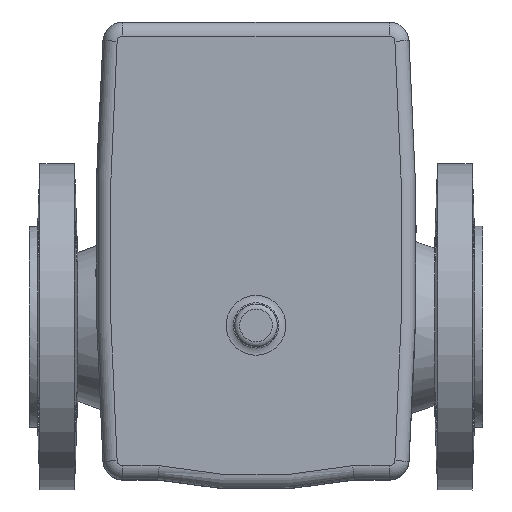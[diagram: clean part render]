
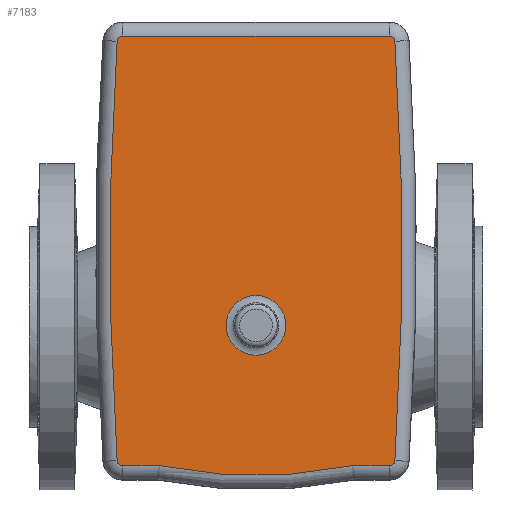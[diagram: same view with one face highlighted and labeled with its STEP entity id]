
A CAD part, top view. The second image highlights one B-rep face of the part: STEP entity #7183.
In plain terms, the highlighted planar face has unit normal (0, 0, 1).
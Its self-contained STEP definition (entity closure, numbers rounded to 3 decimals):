
#93=LINE('',#10487,#434);
#95=LINE('',#10519,#436);
#98=LINE('',#10538,#439);
#434=VECTOR('',#8227,1000.);
#436=VECTOR('',#8257,1000.);
#439=VECTOR('',#8280,1000.);
#1286=ORIENTED_EDGE('',*,*,#2581,.T.);
#1287=ORIENTED_EDGE('',*,*,#2588,.F.);
#1288=ORIENTED_EDGE('',*,*,#2583,.F.);
#1289=ORIENTED_EDGE('',*,*,#2590,.F.);
#1290=ORIENTED_EDGE('',*,*,#2596,.F.);
#1291=ORIENTED_EDGE('',*,*,#2602,.F.);
#1292=ORIENTED_EDGE('',*,*,#2608,.F.);
#1293=ORIENTED_EDGE('',*,*,#2610,.F.);
#1294=ORIENTED_EDGE('',*,*,#2606,.F.);
#1295=ORIENTED_EDGE('',*,*,#2600,.F.);
#1296=ORIENTED_EDGE('',*,*,#2594,.F.);
#2581=EDGE_CURVE('',#3276,#3276,#3699,.T.);
#2583=EDGE_CURVE('',#3278,#3279,#93,.T.);
#2588=EDGE_CURVE('',#3279,#3281,#3703,.T.);
#2590=EDGE_CURVE('',#3284,#3278,#3704,.T.);
#2594=EDGE_CURVE('',#3281,#3285,#3708,.T.);
#2596=EDGE_CURVE('',#3288,#3284,#95,.T.);
#2600=EDGE_CURVE('',#3285,#3289,#3712,.T.);
#2602=EDGE_CURVE('',#3292,#3288,#3714,.T.);
#2606=EDGE_CURVE('',#3289,#3293,#98,.T.);
#2608=EDGE_CURVE('',#3296,#3292,#3718,.T.);
#2610=EDGE_CURVE('',#3293,#3296,#3720,.T.);
#3276=VERTEX_POINT('',#10477);
#3278=VERTEX_POINT('',#10486);
#3279=VERTEX_POINT('',#10488);
#3281=VERTEX_POINT('',#10494);
#3284=VERTEX_POINT('',#10506);
#3285=VERTEX_POINT('',#10511);
#3288=VERTEX_POINT('',#10518);
#3289=VERTEX_POINT('',#10523);
#3292=VERTEX_POINT('',#10530);
#3293=VERTEX_POINT('',#10535);
#3296=VERTEX_POINT('',#10542);
#3699=CIRCLE('',#7514,10.521);
#3703=CIRCLE('',#7520,1.964);
#3704=CIRCLE('',#7522,169.964);
#3708=CIRCLE('',#7527,1096.964);
#3712=CIRCLE('',#7533,1.964);
#3714=CIRCLE('',#7536,1.964);
#3718=CIRCLE('',#7542,1096.964);
#3720=CIRCLE('',#7545,1.964);
#4046=EDGE_LOOP('',(#1286));
#4047=EDGE_LOOP('',(#1287,#1288,#1289,#1290,#1291,#1292,#1293,#1294,#1295,
#1296));
#4449=FACE_BOUND('',#4046,.T.);
#4450=FACE_BOUND('',#4047,.T.);
#4765=PLANE('',#7556);
#7183=ADVANCED_FACE('',(#4449,#4450),#4765,.F.);
#7514=AXIS2_PLACEMENT_3D('',#10476,#8223,#8224);
#7520=AXIS2_PLACEMENT_3D('',#10497,#8237,#8238);
#7522=AXIS2_PLACEMENT_3D('',#10507,#8241,#8242);
#7527=AXIS2_PLACEMENT_3D('',#10514,#8251,#8252);
#7533=AXIS2_PLACEMENT_3D('',#10526,#8265,#8266);
#7536=AXIS2_PLACEMENT_3D('',#10531,#8271,#8272);
#7542=AXIS2_PLACEMENT_3D('',#10543,#8285,#8286);
#7545=AXIS2_PLACEMENT_3D('',#10546,#8291,#8292);
#7556=AXIS2_PLACEMENT_3D('',#10560,#8313,#8314);
#8223=DIRECTION('',(0.,0.,-1.));
#8224=DIRECTION('',(0.,-1.,0.));
#8227=DIRECTION('',(-1.,0.,0.));
#8237=DIRECTION('',(0.,0.,-1.));
#8238=DIRECTION('',(0.,-1.,0.));
#8241=DIRECTION('',(0.,0.,-1.));
#8242=DIRECTION('',(0.,-1.,0.));
#8251=DIRECTION('',(0.,0.,-1.));
#8252=DIRECTION('',(0.,-1.,0.));
#8257=DIRECTION('',(-1.,0.,0.));
#8265=DIRECTION('',(0.,0.,-1.));
#8266=DIRECTION('',(0.,-1.,0.));
#8271=DIRECTION('',(0.,0.,-1.));
#8272=DIRECTION('',(0.,-1.,0.));
#8280=DIRECTION('',(1.,0.,0.));
#8285=DIRECTION('',(0.,0.,-1.));
#8286=DIRECTION('',(0.,-1.,0.));
#8291=DIRECTION('',(0.,0.,-1.));
#8292=DIRECTION('',(0.,-1.,0.));
#8313=DIRECTION('',(0.,0.,-1.));
#8314=DIRECTION('',(0.,-1.,0.));
#10476=CARTESIAN_POINT('',(3.11,20.867,291.142));
#10477=CARTESIAN_POINT('',(3.11,10.346,291.142));
#10486=CARTESIAN_POINT('',(-30.986,-28.605,291.142));
#10487=CARTESIAN_POINT('',(-31.489,-28.605,291.142));
#10488=CARTESIAN_POINT('',(-43.89,-28.605,291.142));
#10494=CARTESIAN_POINT('',(-45.85,-26.773,291.142));
#10497=CARTESIAN_POINT('',(-43.89,-26.64,291.142));
#10506=CARTESIAN_POINT('',(37.206,-28.605,291.142));
#10507=CARTESIAN_POINT('',(3.11,137.904,291.142));
#10511=CARTESIAN_POINT('',(-45.85,120.999,291.142));
#10514=CARTESIAN_POINT('',(1048.623,47.113,291.142));
#10518=CARTESIAN_POINT('',(50.11,-28.605,291.142));
#10519=CARTESIAN_POINT('',(50.11,-28.605,291.142));
#10523=CARTESIAN_POINT('',(-43.89,122.832,291.142));
#10526=CARTESIAN_POINT('',(-43.89,120.867,291.142));
#10530=CARTESIAN_POINT('',(52.07,-26.773,291.142));
#10531=CARTESIAN_POINT('',(50.11,-26.64,291.142));
#10535=CARTESIAN_POINT('',(50.11,122.832,291.142));
#10538=CARTESIAN_POINT('',(-43.89,122.832,291.142));
#10542=CARTESIAN_POINT('',(52.07,120.999,291.142));
#10543=CARTESIAN_POINT('',(-1042.403,47.113,291.142));
#10546=CARTESIAN_POINT('',(50.11,120.867,291.142));
#10560=CARTESIAN_POINT('',(3.11,20.867,291.142));
